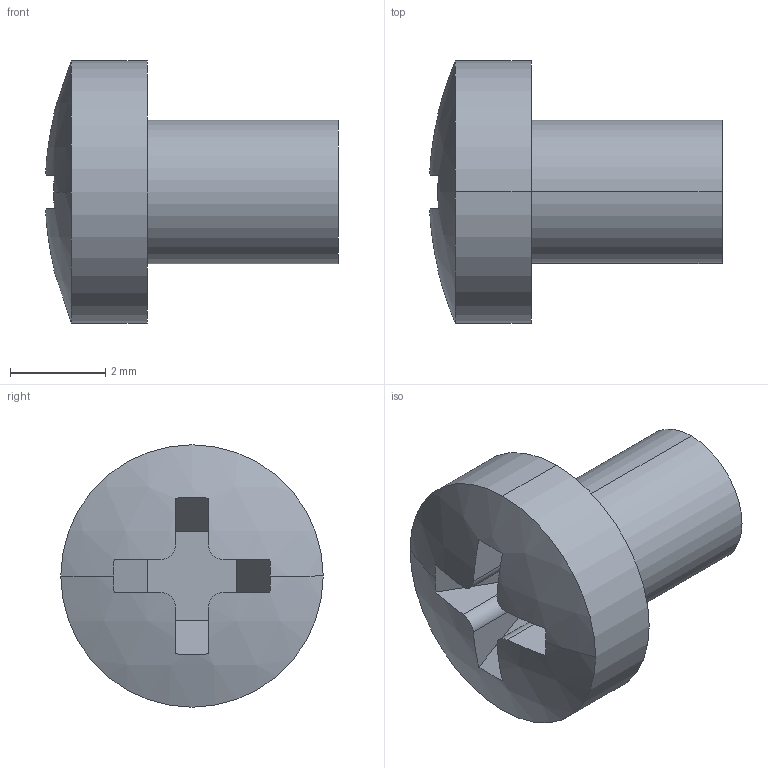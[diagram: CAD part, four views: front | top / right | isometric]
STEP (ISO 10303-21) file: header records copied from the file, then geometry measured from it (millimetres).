
FILE_DESCRIPTION(('Open CASCADE Model'),'2;1');
FILE_NAME('gb-small-pan-head-screw-m3-x-4.step','2026-11-14T14:31:58',( 'Author'),('Open CASCADE'),'Open CASCADE STEP processor 8.0', 'Open CASCADE 8.0','Unknown');
FILE_SCHEMA(('AP242_MANAGED_MODEL_BASED_3D_ENGINEERING_MIM_LF {1 0 10303 442 1 1 4 }' ));
Length unit declared in the file: millimetre
Products named in the file (1): GB Small Pan Head Screw M3 x 4
Bounding box: 6.12 x 5.5 x 5.5 mm (x, y, z)
Volume: 68.3 mm3; surface area: 125.1 mm2
Topology: 1 solids, 1 shells, 25 faces, 66 edges, 44 vertices
Faces by surface type: plane 15, cylinder 8, sphere 2
Entity records: 2208 total; most frequent: CARTESIAN_POINT 924, DIRECTION 236, ORIENTED_EDGE 132, PCURVE 132, DEFINITIONAL_REPRESENTATION 132, LINE 118, VECTOR 118, EDGE_CURVE 66
